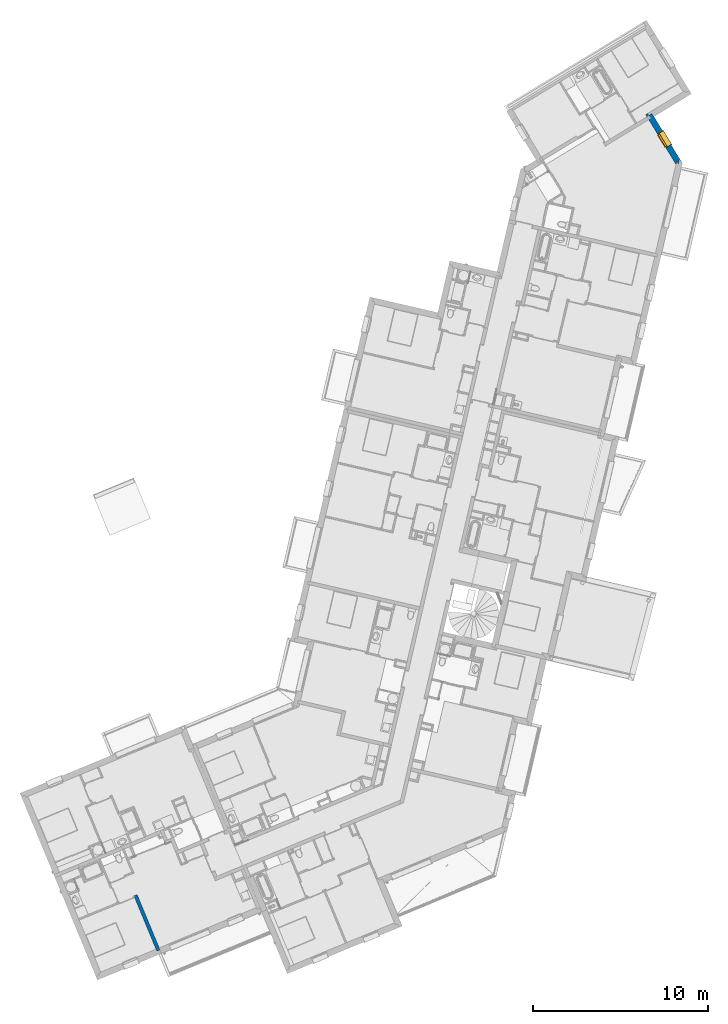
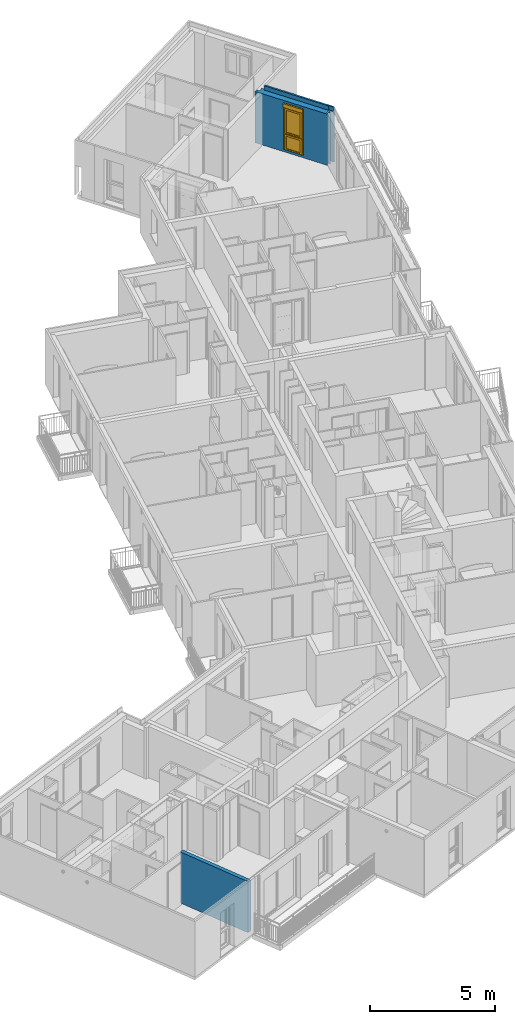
# One storey, part 38 of 90: 2 walls, 1 window, 1 opening.
"""IFC2X3 building model written with IfcOpenShell, lengths in metres."""

from ifc_helpers import new_model, entity, si_unit, converted_unit, derived_unit, money_unit, direction, frame, origin_with_axes, place, context, subcontext, project, spatial, open_shell, faceted_brep, surface_model, source, transform, mapped, material, material_list, type_object, element, fill, save


model = new_model("IFC2X3")

# Units and contexts
model_context = context("Model", 3, precision=1e-05, world=origin_with_axes(), true_north=direction((0.0, 1.0)))
body_context = subcontext(model_context, "Body", "Model", "MODEL_VIEW")
ifc_project = project(units=[si_unit("LENGTHUNIT", "METRE"), si_unit("AREAUNIT", "SQUARE_METRE"), si_unit("VOLUMEUNIT", "CUBIC_METRE"), converted_unit("PLANEANGLEUNIT", "DEGREE", entity("IfcPlaneAngleMeasure", 0.0174532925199), si_unit("PLANEANGLEUNIT", "RADIAN"), dimensions=[0, 0, 0, 0, 0, 0, 0]), si_unit("SOLIDANGLEUNIT", "STERADIAN"), money_unit("EUR"), converted_unit("TIMEUNIT", "Year", entity("IfcTimeMeasure", 31556926.0), si_unit("TIMEUNIT", "SECOND"), dimensions=[0, 0, 1, 0, 0, 0, 0]), si_unit("MASSUNIT", "GRAM", prefix="KILO"), si_unit("THERMODYNAMICTEMPERATUREUNIT", "DEGREE_CELSIUS"), si_unit("LUMINOUSINTENSITYUNIT", "LUMEN"), si_unit("ENERGYUNIT", "JOULE", prefix="MEGA"), derived_unit("THERMALCONDUCTANCEUNIT", [(si_unit("POWERUNIT", "WATT"), 1), (si_unit("LENGTHUNIT", "METRE"), -1), (si_unit("THERMODYNAMICTEMPERATUREUNIT", "KELVIN"), -1)]), derived_unit("SPECIFICHEATCAPACITYUNIT", [(si_unit("ENERGYUNIT", "JOULE"), 1), (si_unit("MASSUNIT", "GRAM", prefix="KILO"), -1), (si_unit("THERMODYNAMICTEMPERATUREUNIT", "KELVIN"), -1)]), derived_unit("MASSDENSITYUNIT", [(si_unit("MASSUNIT", "GRAM", prefix="KILO"), 1), (si_unit("VOLUMEUNIT", "CUBIC_METRE"), -1)])], contexts=[model_context])

# Site, building, storey
site_placement = place(None, origin_with_axes())
site = spatial("IfcSite", under=ifc_project, at=site_placement, Name="Site", CompositionType="ELEMENT")
building_placement = place(site_placement, origin_with_axes())
building = spatial("IfcBuilding", under=site, at=building_placement, Name="Bâtiment", CompositionType="ELEMENT")
storey_placement = place(building_placement, frame((0.0, 0.0, 2.72), z_axis=(0.0, 0.0, 1.0), x_axis=(1.0, 0.0, 0.0)))
storey = spatial("IfcBuildingStorey", under=building, at=storey_placement, Name="R+1", CompositionType="ELEMENT", Elevation=2.72)

# Wall, opening, window
ifc_material_1 = material(Name="Finition ext - Crépis")
ifc_material_2 = material(Name="Béton cellulaire")
ifc_material_3 = material(Name="Mortier")
ifc_material_4 = material(Name="Isolation - Polystyrène expansé")
ifc_material_5 = material(Name="Bloc ELITHERM")
ifc_material_6 = material(Name="Isolation - Polystyrène extrudé")
ifc_material_7 = material(Name="Finition int - Plaque de plâtre")
ifc_material_list_1 = material_list([ifc_material_1, ifc_material_2, ifc_material_3, ifc_material_4, ifc_material_5, ifc_material_6, ifc_material_7])
wall_type_1 = type_object("IfcWallType", Name="Mur ALKERN + planelle 21 345 x 2720", PredefinedType="USERDEFINED")
wall_1_placement = place(storey_placement, frame((0.757663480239, 20.6515866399, 0.0), z_axis=(0.0, 0.0, 1.0), x_axis=(0.519386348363, -0.854539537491, 0.0)))
wall_1 = element("IfcWall", 1, at=wall_1_placement, inside=storey, type_object=wall_type_1, material=ifc_material_list_1, Name="Mue bloc ALKERN isolé", ObjectType="SOLIDWALL", context=body_context, shape_type="Brep", body=[
    faceted_brep([(3.09917733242, -2.07942392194e-08, 2.70288199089), (3.09917733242, -2.1224682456e-08, 2.60999999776), (3.09917733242, -2.16417710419e-08, 2.51999999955), (3.09917733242, -1.97838883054e-08, 2.51), (3.09917732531, -5.25637489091e-09, 0.0), (-0.015, -5.03634467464e-10, 0.0), (-0.015, 0.0, 2.51), (-0.015, 0.0, 2.51999999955), (-0.015, -4.79783324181e-10, 2.72), (2.78340940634, -2.02243164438e-08, 2.72), (2.78340940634, -1.99332639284e-08, 2.70288200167), (2.78517680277, -1.99332657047e-08, 2.70288200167), (2.78517680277, -2.02243679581e-08, 2.72), (3.09917733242, -2.07149088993e-08, 2.71999999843), (0.967439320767, -1.97838900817e-08, 0.06), (1.86743932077, -1.97838883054e-08, 0.06), (1.86743932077, 0.0, 0.12), (1.86743932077, 0.0, 2.22), (0.967439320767, 0.0, 2.22), (0.967439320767, 0.0, 0.12), (3.1145555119, -0.0149999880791, 2.70288199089), (3.11455551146, -0.0149999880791, 2.60999999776), (3.11455551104, -0.0149999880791, 2.51999999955), (3.11455551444, -0.0149999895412, 2.50999999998), (3.11455552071, -0.0149999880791, 0.0), (-0.0150000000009, -0.0149999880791, 0.0), (-0.0150000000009, -0.0149999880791, 2.51), (-0.0150000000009, -0.0149999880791, 2.51999999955), (-0.0150000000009, -0.0149999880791, 2.72), (2.79878758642, -0.0149999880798, 2.72), (2.79878758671, -0.0149999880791, 2.70288200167), (2.80055498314, -0.0149999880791, 2.70288200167), (2.800554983, -0.0149999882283, 2.72), (3.11455551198, -0.0149999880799, 2.71999999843), (0.967439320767, -0.0149999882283, 0.06), (1.86743932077, -0.0149999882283, 0.06), (1.86743932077, -0.0149999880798, 0.12), (1.86743932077, -0.0149999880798, 2.22), (0.967439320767, -0.0149999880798, 2.22), (0.967439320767, -0.0149999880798, 0.12)], [[[0, 1, 2, 3, 4, 5, 6, 7, 8, 9, 10, 11, 12, 13], [14, 15, 16, 17, 18, 19]], [[20, 21, 1, 0]], [[21, 22, 2, 1]], [[22, 23, 3, 2]], [[23, 24, 4, 3]], [[5, 4, 24, 25]], [[6, 5, 25, 26]], [[7, 6, 26, 27]], [[8, 7, 27, 28]], [[28, 29, 9, 8]], [[9, 29, 30, 10]], [[10, 30, 31, 11]], [[12, 11, 31, 32]], [[32, 33, 13, 12]], [[13, 33, 20, 0]], [[15, 14, 34, 35]], [[36, 16, 15, 35]], [[16, 36, 37, 17]], [[17, 37, 38, 18]], [[39, 19, 18, 38]], [[14, 19, 39, 34]], [[21, 20, 33, 32, 31, 30, 29, 28, 27, 26, 25, 24, 23, 22], [34, 39, 38, 37, 36, 35]]]),
    faceted_brep([(-0.0630000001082, -0.0150000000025, 2.51999999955), (-0.0630000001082, -0.015, 2.72), (2.79878759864, -0.0150000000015, 2.72), (2.79878759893, -0.015, 2.70288200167), (2.80055499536, -0.015, 2.70288200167), (2.80055499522, -0.0150000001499, 2.72), (3.04581213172, -0.0150000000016, 2.71999999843), (3.04581213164, -0.015, 2.70288199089), (3.04581213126, -0.015, 2.60999999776), (3.04581213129, -0.0150000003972, 2.51999999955), (-0.0630000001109, -0.062999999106, 2.72), (-0.0630000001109, -0.0629999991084, 2.51999999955), (2.84799787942, -0.0629999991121, 2.72), (2.8479978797, -0.0629999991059, 2.70288200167), (2.84976527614, -0.0629999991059, 2.70288200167), (2.849765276, -0.0629999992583, 2.72), (3.09502241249, -0.0629999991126, 2.71999999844), (3.09502241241, -0.0629999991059, 2.70288199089), (3.09502241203, -0.0629999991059, 2.60999999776), (3.09502241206, -0.0629999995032, 2.51999999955)], [[[0, 1, 2, 3, 4, 5, 6, 7, 8, 9]], [[10, 1, 0, 11]], [[1, 10, 12, 2]], [[3, 2, 12, 13]], [[4, 3, 13, 14]], [[15, 5, 4, 14]], [[5, 15, 16, 6]], [[7, 6, 16, 17]], [[7, 17, 18, 8]], [[8, 18, 19, 9]], [[11, 0, 9, 19]], [[10, 11, 19, 18, 17, 16, 15, 14, 13, 12]]]),
    faceted_brep([(3.08688362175, -0.083, 2.52), (3.01716905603, -0.015, 2.52), (-0.0829999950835, -0.015, 2.51999998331), (-0.0829999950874, -0.083, 2.51999998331), (3.01716905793, -0.015, 2.51), (3.08688362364, -0.083, 2.51), (-0.0829999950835, -0.015, 2.51000000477), (-0.0829999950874, -0.083, 2.51000000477)], [[[0, 1, 2, 3]], [[4, 1, 0, 5]], [[1, 4, 6, 2]], [[3, 2, 6, 7]], [[5, 0, 3, 7]], [[4, 5, 7, 6]]]),
    faceted_brep([(-0.0829999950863, -0.0630000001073, 2.72), (2.84799787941, -0.0629999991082, 2.72), (2.84799788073, -0.0630000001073, 2.70288200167), (2.84976527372, -0.0629999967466, 2.70288200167), (2.86301350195, -0.0629999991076, 2.70288199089), (2.86301349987, -0.0629999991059, 2.60999999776), (2.877335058, -0.0629999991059, 2.60999999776), (2.8773350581, -0.0629999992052, 2.51999999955), (-0.0829999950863, -0.0630000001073, 2.51999998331), (-0.0829999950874, -0.083000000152, 2.72), (2.86850216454, -0.0830000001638, 2.72), (2.86850216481, -0.083000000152, 2.70288200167), (2.87026955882, -0.082999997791, 2.70288200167), (2.88351778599, -0.0829999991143, 2.70288199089), (2.88351778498, -0.083000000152, 2.60999999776), (2.89783934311, -0.083000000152, 2.60999999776), (2.89783934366, -0.0830000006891, 2.51999999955), (-0.0829999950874, -0.083000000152, 2.51999998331)], [[[0, 1, 2, 3, 4, 5, 6, 7, 8]], [[9, 10, 1, 0]], [[11, 2, 1, 10]], [[11, 12, 3, 2]], [[4, 3, 12, 13]], [[5, 4, 13, 14]], [[14, 15, 6, 5]], [[7, 6, 15, 16]], [[8, 7, 16, 17]], [[8, 17, 9, 0]], [[12, 11, 10, 9, 17, 16, 15, 14, 13]]]),
    faceted_brep([(2.82812478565, -0.0150000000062, 2.51000000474), (2.8281247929, -0.015, 0.0), (-0.215000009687, -0.015, 0.0), (-0.215000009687, -0.0150000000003, 2.51), (0.967439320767, -0.0150000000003, 0.06), (1.86743932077, -0.0150000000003, 0.06), (1.86743932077, -0.015, 0.12), (1.86743932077, -0.015, 2.22), (0.967439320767, -0.015, 2.22), (0.967439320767, -0.015, 0.12), (3.03316762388, -0.214999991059, 0.0), (2.89783933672, -0.0829999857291, 2.51000000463), (3.03316761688, -0.214999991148, 2.51000000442), (-0.215000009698, -0.214999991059, 0.0), (-0.215000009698, -0.214999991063, 2.51), (-0.215000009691, -0.0829999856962, 2.51), (0.967439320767, -0.214999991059, 0.06), (1.86743932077, -0.214999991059, 0.06), (1.86743932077, -0.214999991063, 0.12), (1.86743932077, -0.214999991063, 2.22), (0.967439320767, -0.214999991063, 2.22), (0.967439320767, -0.214999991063, 0.12)], [[[0, 1, 2, 3], [4, 5, 6, 7, 8, 9]], [[10, 1, 0, 11, 12]], [[1, 10, 13, 2]], [[14, 15, 3, 2, 13]], [[11, 0, 3, 15]], [[5, 4, 16, 17]], [[6, 5, 17, 18, 19, 7]], [[7, 19, 20, 8]], [[21, 16, 4, 9, 8, 20]], [[12, 11, 15, 14]], [[10, 12, 14, 13], [16, 21, 20, 19, 18, 17]]]),
    faceted_brep([(2.86130916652, -0.215000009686, 0.0), (-0.33500001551, -0.215000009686, 0.0), (-0.33500001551, -0.215000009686, 2.51), (2.86130915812, -0.215000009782, 2.51000000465), (0.967439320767, -0.215000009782, 0.06), (1.86743932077, -0.215000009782, 0.06), (1.86743932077, -0.215000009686, 0.12), (1.86743932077, -0.215, 2.22), (1.86743932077, -0.215, 2.4), (0.967439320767, -0.215, 2.4), (0.967439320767, -0.215, 2.22), (0.967439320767, -0.215000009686, 0.12), (2.98433487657, -0.335000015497, 0.0), (-0.335000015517, -0.335000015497, 0.0), (-0.335000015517, -0.335000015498, 2.51), (2.98433486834, -0.335000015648, 2.51000000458), (0.967439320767, -0.286, 0.06), (1.86743932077, -0.286, 0.06), (1.86743932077, -0.286, 0.12), (1.86743932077, -0.335000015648, 0.12), (1.86743932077, -0.335000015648, 2.22), (1.86743932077, -0.335000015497, 2.4), (0.967439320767, -0.335000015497, 2.4), (0.967439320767, -0.286, 0.12), (0.967439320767, -0.335000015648, 2.22), (0.967439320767, -0.335000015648, 0.12)], [[[0, 1, 2, 3], [4, 5, 6, 7, 8, 9, 10, 11]], [[12, 13, 1, 0]], [[13, 14, 2, 1]], [[3, 2, 14, 15]], [[12, 0, 3, 15]], [[5, 4, 16, 17]], [[6, 5, 17, 18, 19, 20, 21, 8, 7]], [[8, 21, 22, 9]], [[23, 16, 4, 11, 10, 9, 22, 24, 25]], [[15, 14, 13, 12], [25, 24, 22, 21, 20, 19]], [[23, 18, 17, 16]], [[18, 23, 25, 19]]]),
    faceted_brep([(2.97001337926, -0.335000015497, 0.0), (-0.344999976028, -0.335000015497, 0.0), (-0.344999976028, -0.335000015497, 2.51000000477), (2.97001337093, -0.335000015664, 2.51000000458), (0.967439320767, -0.335000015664, 2.4), (0.967439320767, -0.335000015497, 2.22), (0.967439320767, -0.335000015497, 0.12), (1.86743932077, -0.335000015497, 0.12), (1.86743932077, -0.335000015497, 2.22), (1.86743932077, -0.335000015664, 2.4), (2.98026549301, -0.34499998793, 0.0), (-0.344999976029, -0.34499998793, 0.0), (-0.344999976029, -0.34499998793, 2.51000000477), (2.98026548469, -0.344999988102, 2.51000000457), (0.967439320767, -0.34499998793, 2.4), (0.967439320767, -0.34499998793, 2.22), (0.967439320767, -0.34499998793, 0.12), (1.86743932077, -0.34499998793, 0.12), (1.86743932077, -0.34499998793, 2.22), (1.86743932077, -0.34499998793, 2.4)], [[[0, 1, 2, 3], [4, 5, 6, 7, 8, 9]], [[10, 11, 1, 0]], [[12, 2, 1, 11]], [[3, 2, 12, 13]], [[3, 13, 10, 0]], [[5, 4, 14, 15]], [[5, 15, 16, 6]], [[6, 16, 17, 7]], [[18, 8, 7, 17]], [[9, 8, 18, 19]], [[4, 9, 19, 14]], [[13, 12, 11, 10], [19, 18, 17, 16, 15, 14]]]),
])
opening_placement = place(wall_1_placement, frame((1.41743932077, 0.0, 0.12), z_axis=(0.0, 0.0, 1.0), x_axis=(1.0, 0.0, 0.0)))
opening = element("IfcOpeningElement", 2, at=opening_placement, cuts=wall_1, Name="MEN 39", context=body_context, shape_type="Brep", body=[
    faceted_brep([(-0.45, -0.245, 0.0), (0.45, -0.245, 0.0), (0.45, -0.83499998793, 0.0), (-0.45, -0.83499998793, 0.0), (-0.45, -0.245, 2.1), (0.45, -0.245, 2.1), (0.45, -0.83499998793, 2.1), (-0.45, -0.83499998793, 2.1)], [[[0, 1, 2, 3]], [[0, 4, 5, 1]], [[1, 5, 6, 2]], [[3, 2, 6, 7]], [[4, 0, 3, 7]], [[5, 4, 7, 6]]]),
    faceted_brep([(-0.45, -0.245, 0.0), (-0.45, -0.245, 2.1), (-0.45, 0.34499998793, 2.1), (-0.45, 0.34499998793, 0.0), (0.45, -0.245, 0.0), (0.45, -0.245, 2.1), (0.45, 0.34499998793, 2.1), (0.45, 0.34499998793, 0.0)], [[[0, 1, 2, 3]], [[0, 4, 5, 1]], [[1, 5, 6, 2]], [[3, 2, 6, 7]], [[4, 0, 3, 7]], [[5, 4, 7, 6]]]),
    faceted_brep([(-0.45, -0.245, 0.0), (-0.45, -0.245, 2.1), (-0.45, 0.34499998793, 2.1), (-0.45, 0.34499998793, 0.0), (0.45, -0.245, 0.0), (0.45, -0.245, 2.1), (0.45, 0.34499998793, 2.1), (0.45, 0.34499998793, 0.0)], [[[0, 1, 2, 3]], [[0, 4, 5, 1]], [[1, 5, 6, 2]], [[3, 2, 6, 7]], [[4, 0, 3, 7]], [[5, 4, 7, 6]]]),
    faceted_brep([(-0.45, -0.215, 2.1), (0.45, -0.215, 2.1), (0.45, -0.80499998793, 2.1), (-0.45, -0.80499998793, 2.1), (-0.45, -0.215, 2.28), (0.45, -0.215, 2.28), (0.45, -0.80499998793, 2.28), (-0.45, -0.80499998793, 2.28)], [[[0, 1, 2, 3]], [[0, 4, 5, 1]], [[1, 5, 6, 2]], [[3, 2, 6, 7]], [[4, 0, 3, 7]], [[5, 4, 7, 6]]]),
    faceted_brep([(-0.45, -0.286, 0.0), (0.45, -0.286, 0.0), (0.45, 0.30399998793, 0.0), (-0.45, 0.30399998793, 0.0), (-0.45, -0.286, -0.06), (0.45, -0.286, -0.06), (0.45, 0.30399998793, -0.06), (-0.45, 0.30399998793, -0.06)], [[[0, 1, 2, 3]], [[0, 4, 5, 1]], [[1, 5, 6, 2]], [[3, 2, 6, 7]], [[4, 0, 3, 7]], [[5, 4, 7, 6]]]),
])
window_style = type_object("IfcWindowStyle", Name="Baie générique 2017 v2", ConstructionType="NOTDEFINED", OperationType="NOTDEFINED", ParameterTakesPrecedence=False, Sizeable=False)
shared_shape = source(origin_with_axes(), body_context, "Body", "SurfaceModel", [
    faceted_brep([(0.45, 0.0, 2.1), (-0.45, 0.0, 2.1), (-0.45, 0.0, 0.0), (0.45, 0.0, 0.0), (-0.39, 0.0, 0.85), (-0.39, 0.0, 2.05), (0.39, 0.0, 2.05), (0.39, 0.0, 0.85), (-0.39, 0.0, 0.78), (0.39, 0.0, 0.78), (0.39, 0.0, 0.05), (-0.39, 0.0, 0.05), (0.45, 0.1, 2.1), (-0.45, 0.1, 2.1), (-0.45, 0.1, 0.0), (0.45, 0.1, 0.0), (-0.39, 0.1, 0.85), (-0.39, 0.1, 2.05), (0.39, 0.1, 2.05), (0.39, 0.1, 0.85), (-0.39, 0.1, 0.78), (0.39, 0.1, 0.78), (0.39, 0.1, 0.05), (-0.39, 0.1, 0.05)], [[[0, 1, 2, 3], [4, 5, 6, 7], [8, 9, 10, 11]], [[1, 0, 12, 13]], [[2, 1, 13, 14]], [[3, 2, 14, 15]], [[0, 3, 15, 12]], [[16, 17, 5, 4]], [[6, 5, 17, 18]], [[7, 6, 18, 19]], [[4, 7, 19, 16]], [[20, 21, 9, 8]], [[21, 22, 10, 9]], [[11, 10, 22, 23]], [[8, 11, 23, 20]], [[14, 13, 12, 15], [16, 19, 18, 17], [20, 23, 22, 21]]]),
    faceted_brep([(-0.32, 0.09, 1.98), (-0.32, 0.09, 0.9), (-0.32, 0.14, 0.9), (-0.32, 0.14, 1.98), (-0.39, 0.09, 2.05), (-0.39, 0.09, 0.85), (0.39, 0.09, 0.85), (0.39, 0.09, 2.05), (0.32, 0.09, 1.98), (0.32, 0.09, 0.9), (0.32, 0.14, 0.9), (-0.400012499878, 0.140000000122, 0.839987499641), (-0.400012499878, 0.140000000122, 2.0600124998), (0.400012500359, 0.140000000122, 2.0600124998), (0.400012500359, 0.140000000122, 0.839987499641), (0.32, 0.14, 1.98), (-0.39, 0.10005, 0.85), (-0.39, 0.10005, 2.05), (0.39, 0.10005, 0.85), (0.39, 0.10005, 2.05), (-0.41, 0.10005, 0.83), (-0.41, 0.10005, 2.07), (0.41, 0.10005, 2.07), (0.41, 0.10005, 0.83)], [[[0, 1, 2, 3]], [[4, 5, 6, 7], [0, 8, 9, 1]], [[9, 10, 2, 1]], [[11, 12, 13, 14], [2, 10, 15, 3]], [[8, 0, 3, 15]], [[16, 5, 4, 17]], [[18, 6, 5, 16]], [[19, 7, 6, 18]], [[17, 4, 7, 19]], [[8, 15, 10, 9]], [[12, 11, 20, 21]], [[13, 12, 21, 22]], [[14, 13, 22, 23]], [[11, 14, 23, 20]], [[21, 20, 23, 22], [19, 18, 16, 17]]]),
    surface_model("IfcShellBasedSurfaceModel", [(0.39, 0.14, 0.85), (0.39, 0.14, 2.05), (0.39, 0.115, 2.05), (0.39, 0.115, 0.85)], [open_shell([[[0, 1, 2, 3]]])]),
    surface_model("IfcShellBasedSurfaceModel", [(-0.39, 0.14, 0.85), (-0.39, 0.14, 2.05), (-0.39, 0.115, 2.05), (-0.39, 0.115, 0.85)], [open_shell([[[0, 1, 2, 3]]])]),
    surface_model("IfcShellBasedSurfaceModel", [(0.39, 0.14, 0.85), (-0.39, 0.14, 0.85), (-0.39, 0.115, 0.85), (0.39, 0.115, 0.85)], [open_shell([[[0, 1, 2, 3]]])]),
    surface_model("IfcShellBasedSurfaceModel", [(0.39, 0.14, 2.05), (-0.39, 0.14, 2.05), (-0.39, 0.115, 2.05), (0.39, 0.115, 2.05)], [open_shell([[[0, 1, 2, 3]]])]),
    surface_model("IfcShellBasedSurfaceModel", [(0.39, 0.115, 0.85), (0.39, 0.115, 2.05), (0.39, 0.09, 2.05), (0.39, 0.09, 0.85)], [open_shell([[[0, 1, 2, 3]]])]),
    surface_model("IfcShellBasedSurfaceModel", [(-0.39, 0.115, 0.85), (-0.39, 0.115, 2.05), (-0.39, 0.09, 2.05), (-0.39, 0.09, 0.85)], [open_shell([[[0, 1, 2, 3]]])]),
    surface_model("IfcShellBasedSurfaceModel", [(0.39, 0.115, 0.85), (-0.39, 0.115, 0.85), (-0.39, 0.09, 0.85), (0.39, 0.09, 0.85)], [open_shell([[[0, 1, 2, 3]]])]),
    surface_model("IfcShellBasedSurfaceModel", [(0.39, 0.115, 2.05), (-0.39, 0.115, 2.05), (-0.39, 0.09, 2.05), (0.39, 0.09, 2.05)], [open_shell([[[0, 1, 2, 3]]])]),
    faceted_brep([(0.32, 0.1175, 0.9), (0.32, 0.1125, 0.9), (-0.32, 0.1125, 0.9), (-0.32, 0.1175, 0.9), (0.32, 0.1175, 1.98), (0.32, 0.1125, 1.98), (-0.32, 0.1125, 1.98), (-0.32, 0.1175, 1.98)], [[[0, 1, 2, 3]], [[4, 5, 1, 0]], [[1, 5, 6, 2]], [[3, 2, 6, 7]], [[0, 3, 7, 4]], [[7, 6, 5, 4]]]),
    faceted_brep([(-0.32, 0.09, 0.71), (-0.32, 0.09, 0.1), (-0.32, 0.14, 0.1), (-0.32, 0.14, 0.71), (-0.39, 0.09, 0.78), (-0.39, 0.09, 0.05), (0.39, 0.09, 0.05), (0.39, 0.09, 0.78), (0.32, 0.09, 0.71), (0.32, 0.09, 0.1), (0.32, 0.14, 0.1), (-0.400012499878, 0.140000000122, 0.039987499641), (-0.400012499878, 0.140000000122, 0.790012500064), (0.400012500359, 0.140000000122, 0.790012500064), (0.400012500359, 0.140000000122, 0.039987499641), (0.32, 0.14, 0.71), (-0.39, 0.10005, 0.05), (-0.39, 0.10005, 0.78), (0.39, 0.10005, 0.05), (0.39, 0.10005, 0.78), (-0.41, 0.10005, 0.03), (-0.41, 0.10005, 0.8), (0.41, 0.10005, 0.8), (0.41, 0.10005, 0.03)], [[[0, 1, 2, 3]], [[4, 5, 6, 7], [0, 8, 9, 1]], [[9, 10, 2, 1]], [[11, 12, 13, 14], [2, 10, 15, 3]], [[8, 0, 3, 15]], [[16, 5, 4, 17]], [[18, 6, 5, 16]], [[19, 7, 6, 18]], [[17, 4, 7, 19]], [[8, 15, 10, 9]], [[12, 11, 20, 21]], [[13, 12, 21, 22]], [[14, 13, 22, 23]], [[11, 14, 23, 20]], [[21, 20, 23, 22], [19, 18, 16, 17]]]),
    surface_model("IfcShellBasedSurfaceModel", [(0.39, 0.14, 0.05), (0.39, 0.14, 0.78), (0.39, 0.115, 0.78), (0.39, 0.115, 0.05)], [open_shell([[[0, 1, 2, 3]]])]),
    surface_model("IfcShellBasedSurfaceModel", [(-0.39, 0.14, 0.05), (-0.39, 0.14, 0.78), (-0.39, 0.115, 0.78), (-0.39, 0.115, 0.05)], [open_shell([[[0, 1, 2, 3]]])]),
    surface_model("IfcShellBasedSurfaceModel", [(0.39, 0.14, 0.05), (-0.39, 0.14, 0.05), (-0.39, 0.115, 0.05), (0.39, 0.115, 0.05)], [open_shell([[[0, 1, 2, 3]]])]),
    surface_model("IfcShellBasedSurfaceModel", [(0.39, 0.14, 0.78), (-0.39, 0.14, 0.78), (-0.39, 0.115, 0.78), (0.39, 0.115, 0.78)], [open_shell([[[0, 1, 2, 3]]])]),
    surface_model("IfcShellBasedSurfaceModel", [(0.39, 0.115, 0.05), (0.39, 0.115, 0.78), (0.39, 0.09, 0.78), (0.39, 0.09, 0.05)], [open_shell([[[0, 1, 2, 3]]])]),
    surface_model("IfcShellBasedSurfaceModel", [(-0.39, 0.115, 0.05), (-0.39, 0.115, 0.78), (-0.39, 0.09, 0.78), (-0.39, 0.09, 0.05)], [open_shell([[[0, 1, 2, 3]]])]),
    surface_model("IfcShellBasedSurfaceModel", [(0.39, 0.115, 0.05), (-0.39, 0.115, 0.05), (-0.39, 0.09, 0.05), (0.39, 0.09, 0.05)], [open_shell([[[0, 1, 2, 3]]])]),
    surface_model("IfcShellBasedSurfaceModel", [(0.39, 0.115, 0.78), (-0.39, 0.115, 0.78), (-0.39, 0.09, 0.78), (0.39, 0.09, 0.78)], [open_shell([[[0, 1, 2, 3]]])]),
    faceted_brep([(0.32, 0.1175, 0.1), (0.32, 0.1125, 0.1), (-0.32, 0.1125, 0.1), (-0.32, 0.1175, 0.1), (0.32, 0.1175, 0.71), (0.32, 0.1125, 0.71), (-0.32, 0.1125, 0.71), (-0.32, 0.1175, 0.71)], [[[0, 1, 2, 3]], [[4, 5, 1, 0]], [[1, 5, 6, 2]], [[3, 2, 6, 7]], [[0, 3, 7, 4]], [[7, 6, 5, 4]]]),
    faceted_brep([(0.45, -0.03, 0.0), (0.45, -0.03, 2.1), (0.425, -0.03, 2.1), (0.425, -0.03, 0.0), (0.45, -0.002, 0.0), (0.45, -0.002, 2.1), (0.425, -0.002, 2.1), (0.425, -0.004, 2.1), (0.448, -0.004, 2.1), (0.448, -0.028, 2.1), (0.425, -0.028, 2.1), (0.425, -0.028, 0.0), (0.448, -0.028, 0.0), (0.448, -0.004, 0.0), (0.425, -0.004, 0.0), (0.425, -0.002, 0.0)], [[[0, 1, 2, 3]], [[4, 5, 1, 0]], [[1, 5, 6, 7, 8, 9, 10, 2]], [[3, 2, 10, 11]], [[0, 3, 11, 12, 13, 14, 15, 4]], [[15, 6, 5, 4]], [[14, 7, 6, 15]], [[13, 8, 7, 14]], [[12, 9, 8, 13]], [[11, 10, 9, 12]]]),
    faceted_brep([(-0.45, -0.03, 0.0), (-0.425, -0.03, 0.0), (-0.425, -0.03, 2.1), (-0.45, -0.03, 2.1), (-0.45, -0.002, 0.0), (-0.425, -0.002, 0.0), (-0.425, -0.004, 0.0), (-0.448, -0.004, 0.0), (-0.448, -0.028, 0.0), (-0.425, -0.028, 0.0), (-0.425, -0.028, 2.1), (-0.448, -0.028, 2.1), (-0.448, -0.004, 2.1), (-0.425, -0.004, 2.1), (-0.425, -0.002, 2.1), (-0.45, -0.002, 2.1)], [[[0, 1, 2, 3]], [[0, 4, 5, 6, 7, 8, 9, 1]], [[1, 9, 10, 2]], [[3, 2, 10, 11, 12, 13, 14, 15]], [[4, 0, 3, 15]], [[5, 4, 15, 14]], [[6, 5, 14, 13]], [[7, 6, 13, 12]], [[8, 7, 12, 11]], [[9, 8, 11, 10]]]),
    faceted_brep([(-0.448, -0.028, 2.1), (-0.448, -0.028, 2.278), (0.448, -0.028, 2.278), (0.448, -0.028, 2.1), (-0.448, -0.03, 2.1), (-0.448, -0.03, 2.28), (-0.448, 0.17, 2.28), (-0.448, 0.17, 2.1), (-0.448, 0.168, 2.1), (-0.448, 0.168, 2.278), (0.448, 0.168, 2.278), (0.448, 0.168, 2.1), (0.448, 0.17, 2.1), (0.448, 0.17, 2.28), (0.448, -0.03, 2.28), (0.448, -0.03, 2.1)], [[[0, 1, 2, 3]], [[0, 4, 5, 6, 7, 8, 9, 1]], [[1, 9, 10, 2]], [[3, 2, 10, 11, 12, 13, 14, 15]], [[4, 0, 3, 15]], [[5, 4, 15, 14]], [[6, 5, 14, 13]], [[7, 6, 13, 12]], [[8, 7, 12, 11]], [[9, 8, 11, 10]]]),
    faceted_brep([(-0.448, 0.0724697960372, 2.17436337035), (-0.448, 0.0555495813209, 2.17050144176), (-0.448, 0.041980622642, 2.18132232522), (-0.448, 0.041980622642, 2.19867767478), (-0.448, 0.0555495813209, 2.20949855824), (-0.448, 0.0724697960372, 2.20563662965), (-0.448, 0.08, 2.19), (0.448, 0.0724697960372, 2.17436337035), (0.448, 0.0555495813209, 2.17050144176), (0.448, 0.041980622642, 2.18132232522), (0.448, 0.041980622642, 2.19867767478), (0.448, 0.0555495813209, 2.20949855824), (0.448, 0.0724697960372, 2.20563662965), (0.448, 0.08, 2.19)], [[[0, 1, 2, 3, 4, 5, 6]], [[1, 0, 7, 8]], [[2, 1, 8, 9]], [[3, 2, 9, 10]], [[4, 3, 10, 11]], [[5, 4, 11, 12]], [[6, 5, 12, 13]], [[0, 6, 13, 7]], [[7, 13, 12, 11, 10, 9, 8]]]),
    faceted_brep([(-0.438, 0.130275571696, 2.15615706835), (-0.438, 0.108632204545, 2.12901714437), (-0.438, 0.0773566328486, 2.11395562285), (-0.438, 0.0426433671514, 2.11395562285), (-0.438, 0.011367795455, 2.12901714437), (-0.438, -0.0102755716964, 2.15615706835), (-0.438, -0.018, 2.19), (-0.438, -0.0102755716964, 2.22384293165), (-0.438, 0.011367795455, 2.25098285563), (-0.438, 0.0426433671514, 2.26604437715), (-0.438, 0.0773566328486, 2.26604437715), (-0.438, 0.108632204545, 2.25098285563), (-0.438, 0.130275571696, 2.22384293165), (-0.438, 0.138, 2.19), (0.438, 0.130275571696, 2.15615706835), (0.438, 0.108632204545, 2.12901714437), (0.438, 0.0773566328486, 2.11395562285), (0.438, 0.0426433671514, 2.11395562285), (0.438, 0.011367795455, 2.12901714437), (0.438, -0.0102755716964, 2.15615706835), (0.438, -0.018, 2.19), (0.438, -0.0102755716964, 2.22384293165), (0.438, 0.011367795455, 2.25098285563), (0.438, 0.0426433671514, 2.26604437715), (0.438, 0.0773566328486, 2.26604437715), (0.438, 0.108632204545, 2.25098285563), (0.438, 0.130275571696, 2.22384293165), (0.438, 0.138, 2.19)], [[[0, 1, 2, 3, 4, 5, 6, 7, 8, 9, 10, 11, 12, 13]], [[1, 0, 14, 15]], [[2, 1, 15, 16]], [[3, 2, 16, 17]], [[4, 3, 17, 18]], [[5, 4, 18, 19]], [[6, 5, 19, 20]], [[7, 6, 20, 21]], [[8, 7, 21, 22]], [[9, 8, 22, 23]], [[10, 9, 23, 24]], [[11, 10, 24, 25]], [[12, 11, 25, 26]], [[13, 12, 26, 27]], [[0, 13, 27, 14]], [[14, 27, 26, 25, 24, 23, 22, 21, 20, 19, 18, 17, 16, 15]]]),
    faceted_brep([(-0.45, 0.17, 2.1), (-0.45, 0.17, 2.28), (-0.448, 0.17, 2.28), (-0.448, 0.17, 2.1), (-0.45, -0.03, 2.1), (-0.45, -0.03, 2.28), (-0.448, -0.03, 2.28), (-0.448, -0.03, 2.1)], [[[0, 1, 2, 3]], [[0, 4, 5, 1]], [[1, 5, 6, 2]], [[3, 2, 6, 7]], [[4, 0, 3, 7]], [[5, 4, 7, 6]]]),
    faceted_brep([(0.448, 0.17, 2.1), (0.448, 0.17, 2.28), (0.45, 0.17, 2.28), (0.45, 0.17, 2.1), (0.448, -0.03, 2.1), (0.448, -0.03, 2.28), (0.45, -0.03, 2.28), (0.45, -0.03, 2.1)], [[[0, 1, 2, 3]], [[0, 4, 5, 1]], [[1, 5, 6, 2]], [[3, 2, 6, 7]], [[4, 0, 3, 7]], [[5, 4, 7, 6]]]),
    faceted_brep([(-0.448, -0.004, 2.1), (-0.448, 0.168, 2.1), (0.448, 0.168, 2.1), (0.448, -0.004, 2.1), (-0.448, -0.004, 2.102), (-0.448, 0.168, 2.102), (0.448, 0.168, 2.102), (0.448, -0.004, 2.102)], [[[0, 1, 2, 3]], [[0, 4, 5, 1]], [[1, 5, 6, 2]], [[3, 2, 6, 7]], [[4, 0, 3, 7]], [[5, 4, 7, 6]]]),
    faceted_brep([(-0.438, -0.006, 2.1), (-0.438, -0.006, 2.19), (0.438, -0.006, 2.19), (0.438, -0.006, 2.1), (-0.438, -0.026, 2.1), (-0.438, -0.026, 2.19), (0.438, -0.026, 2.19), (0.438, -0.026, 2.1)], [[[0, 1, 2, 3]], [[1, 0, 4, 5]], [[2, 1, 5, 6]], [[3, 2, 6, 7]], [[4, 0, 3, 7]], [[5, 4, 7, 6]]]),
    faceted_brep([(-0.45, -0.00167949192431, -0.01), (0.45, -0.00167949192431, -0.01), (0.45, 0.0, -0.00373205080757), (0.49, 0.0, -0.00373205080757), (0.49, 0.001, 0.0), (-0.49, 0.001, 0.0), (-0.49, 0.0, -0.00373205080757), (-0.45, 0.0, -0.00373205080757), (-0.45, -0.009, -0.0173205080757), (0.45, -0.009, -0.0173205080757), (0.45, -0.245, -0.02), (0.45, -0.245, -0.06), (0.45, 0.0, -0.06), (0.45, -0.019, -0.02), (0.49, 0.0, -0.06), (0.49, 0.041, -0.06), (0.49, 0.041, 0.0), (-0.49, 0.041, 0.0), (-0.49, 0.041, -0.06), (-0.49, 0.0, -0.06), (-0.45, 0.0, -0.06), (-0.45, -0.245, -0.06), (-0.45, -0.245, -0.02), (-0.45, -0.019, -0.02), (0.49, -0.245, -0.02), (0.49, -0.245, -0.06), (0.49, -0.275, -0.06), (-0.49, -0.275, -0.06), (-0.49, -0.245, -0.06), (-0.49, -0.245, -0.02), (-0.49, -0.285, -0.02), (0.49, -0.285, -0.02), (0.49, -0.295, -0.03), (0.49, -0.295, -0.06), (0.49, -0.285, -0.06), (0.49, -0.285, -0.05), (0.49, -0.275, -0.05), (0.49, -0.292071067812, -0.0229289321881), (-0.49, -0.275, -0.05), (-0.49, -0.285, -0.05), (-0.49, -0.285, -0.06), (-0.49, -0.295, -0.06), (-0.49, -0.295, -0.03), (-0.49, -0.292071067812, -0.0229289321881)], [[[0, 1, 2, 3, 4, 5, 6, 7]], [[8, 9, 1, 0]], [[10, 11, 12, 2, 1, 9, 13]], [[3, 2, 12, 14]], [[4, 3, 14, 15, 16]], [[16, 17, 5, 4]], [[6, 5, 17, 18, 19]], [[19, 20, 7, 6]], [[7, 20, 21, 22, 23, 8, 0]], [[23, 13, 9, 8]], [[10, 24, 25, 11]], [[21, 20, 19, 18, 15, 14, 12, 11, 25, 26, 27, 28]], [[22, 29, 30, 31, 24, 10, 13, 23]], [[15, 18, 17, 16]], [[22, 21, 28, 29]], [[32, 33, 34, 35, 36, 26, 25, 24, 31, 37]], [[36, 38, 27, 26]], [[28, 27, 38, 39, 40, 41, 42, 43, 30, 29]], [[31, 30, 43, 37]], [[32, 42, 41, 33]], [[33, 41, 40, 34]], [[34, 40, 39, 35]], [[35, 39, 38, 36]], [[37, 43, 42, 32]]]),
])
window_placement = place(opening_placement, frame((0.45, 0.0, 0.0), z_axis=(0.0, 0.0, 1.0), x_axis=(-1.0, 0.0, 0.0)))
window = element("IfcWindow", 3, at=window_placement, inside=storey, type_object=window_style, Name="MEN 39", ObjectType="WINDOW", OverallHeight=2.1, OverallWidth=0.9, context=body_context, shape_type="MappedRepresentation", body=[
    mapped(shared_shape, transform((0.45, 0.245, 0.0))),
])
fill(opening, window)

# Wall
ifc_material_8 = material(Name="Finition int - Enduit plâtre")
ifc_material_9 = material(Name="Béton")
ifc_material_list_2 = material_list([ifc_material_8, ifc_material_9, ifc_material_8])
wall_type_2 = type_object("IfcWallType", Name="2 - Murs Béton 18 + Enduit 2 Faces 200", PredefinedType="USERDEFINED")
wall_2_placement = place(storey_placement, frame((-27.3367270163, -27.0787857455, 0.0), z_axis=(0.0, 0.0, 1.0), x_axis=(-0.383112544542, 0.923701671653, 0.0)))
element("IfcWall", 4, at=wall_2_placement, inside=storey, type_object=wall_type_2, material=ifc_material_list_2, Name="M_Ext-008", ObjectType="SOLIDWALL", context=body_context, shape_type="Brep", body=[
    faceted_brep([(3.56273687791, 0.19, 0.02), (0.345000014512, 0.19, 0.02), (0.344999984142, 0.19, 2.51), (3.63673687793, 0.19, 2.51), (3.63673687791, 0.19, 2.5), (3.56273687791, 0.19, 2.5), (3.56273687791, 0.180224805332, 0.02), (0.345000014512, 0.19, 0.0), (0.345000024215, 0.18, 0.0), (0.344999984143, 0.18, 2.51), (3.63673687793, 0.18, 2.51), (3.63673687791, 0.18, 2.5), (3.56273687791, 0.18, 2.5), (3.56273687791, 0.18, 0.0), (3.56273687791, 0.180224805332, 0.0)], [[[0, 1, 2, 3, 4, 5]], [[1, 0, 6]], [[1, 7, 8, 9, 2]], [[3, 2, 9, 10]], [[10, 11, 4, 3]], [[11, 12, 5, 4]], [[6, 0, 5, 12, 13, 14]], [[14, 7, 1, 6]], [[7, 14, 13, 8]], [[13, 12, 11, 10, 9, 8]]]),
    faceted_brep([(3.63673687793, 0.0, 2.47), (0.214999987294, 0.0, 2.47), (0.215000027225, 0.0, 0.0), (3.63673687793, 0.0, 0.0), (0.214999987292, 0.0169999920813, 2.47), (3.63673687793, 0.016999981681, 2.47), (0.214999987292, 0.0169999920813, 2.50999999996), (0.214999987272, 0.18, 2.50999999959), (0.215000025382, 0.18, 0.0), (3.63673687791, 0.18, 0.0), (3.63673687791, 0.18, 2.5), (3.63673687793, 0.016999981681, 2.5), (3.63673687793, 0.016999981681, 2.51), (3.63673687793, 0.18, 2.51)], [[[0, 1, 2, 3]], [[4, 1, 0, 5]], [[4, 6, 7, 8, 2, 1]], [[3, 2, 8, 9]], [[5, 0, 3, 9, 10, 11]], [[12, 6, 4, 5, 11]], [[6, 12, 13, 7]], [[8, 7, 13, 10, 9]], [[12, 11, 10, 13]]]),
    faceted_brep([(3.63673687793, -0.01, 2.47), (0.345000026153, -0.01, 2.47), (0.345000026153, -0.01, 0.0), (3.63673687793, -0.01, 0.0), (0.345000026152, 0.0, 2.47), (3.63673687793, 0.0, 2.47), (0.345000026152, 0.0, 0.0), (3.63673687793, 0.0, 0.0)], [[[0, 1, 2, 3]], [[4, 1, 0, 5]], [[1, 4, 6, 2]], [[3, 2, 6, 7]], [[5, 0, 3, 7]], [[4, 5, 7, 6]]]),
    faceted_brep([(0.0834846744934, -0.01, 2.47), (0.0834846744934, -0.01, 2.51), (0.0830000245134, -0.01, 2.51), (0.0830000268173, -0.01, 2.47000000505), (0.0834846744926, 0.0, 2.51), (0.0834846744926, 0.0, 2.47), (0.0830000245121, 0.0, 2.51), (0.0830000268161, 0.0, 2.47000000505)], [[[0, 1, 2, 3]], [[4, 1, 0, 5]], [[1, 4, 6, 2]], [[3, 2, 6, 7]], [[5, 0, 3, 7]], [[4, 5, 7, 6]]]),
])

save(model, "model.ifc")
